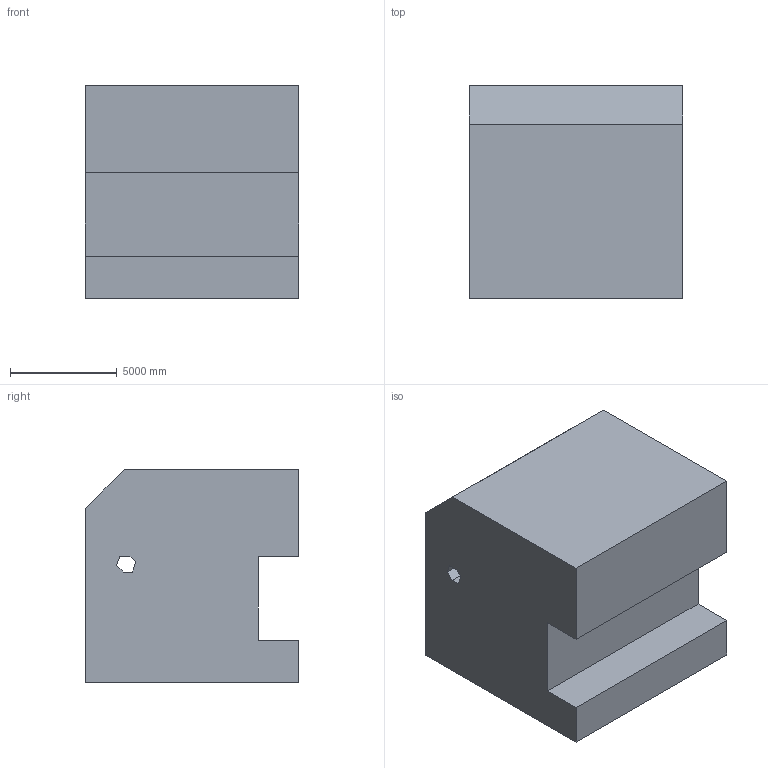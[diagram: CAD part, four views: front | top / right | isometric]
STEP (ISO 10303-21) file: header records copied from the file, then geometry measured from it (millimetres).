
FILE_DESCRIPTION (( 'STEP AP203' ), '1' );
FILE_NAME ('126.STEP', '2022-09-05T15:37:47', ( 'user' ), ( '' ), 'SwSTEP 2.0', 'SolidWorks 2021', '' );
FILE_SCHEMA (( 'CONFIG_CONTROL_DESIGN' ));
Length unit declared in the file: centimetre
Products named in the file (1): 126
Bounding box: 10000 x 10000 x 10000 mm (x, y, z)
Volume: 903556088569.8 mm3; surface area: 634972674 mm2
Topology: 1 solids, 1 shells, 17 faces, 45 edges, 30 vertices
Faces by surface type: plane 17
Entity records: 600 total; most frequent: CARTESIAN_POINT 93, ORIENTED_EDGE 90, DIRECTION 81, EDGE_CURVE 45, VECTOR 45, LINE 45, VERTEX_POINT 30, EDGE_LOOP 19
